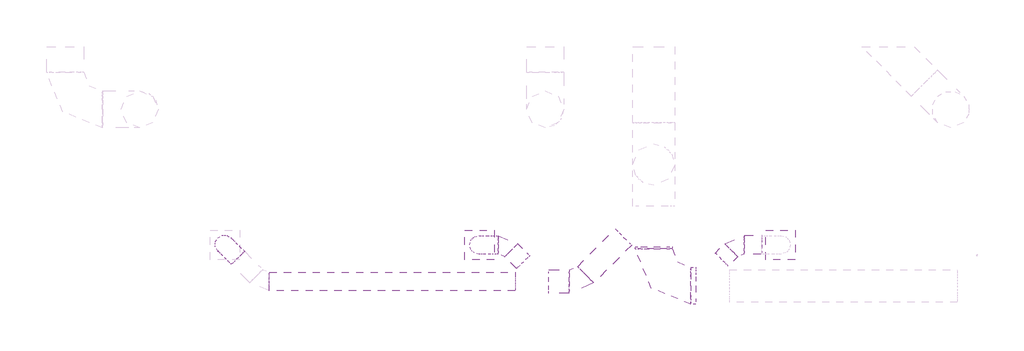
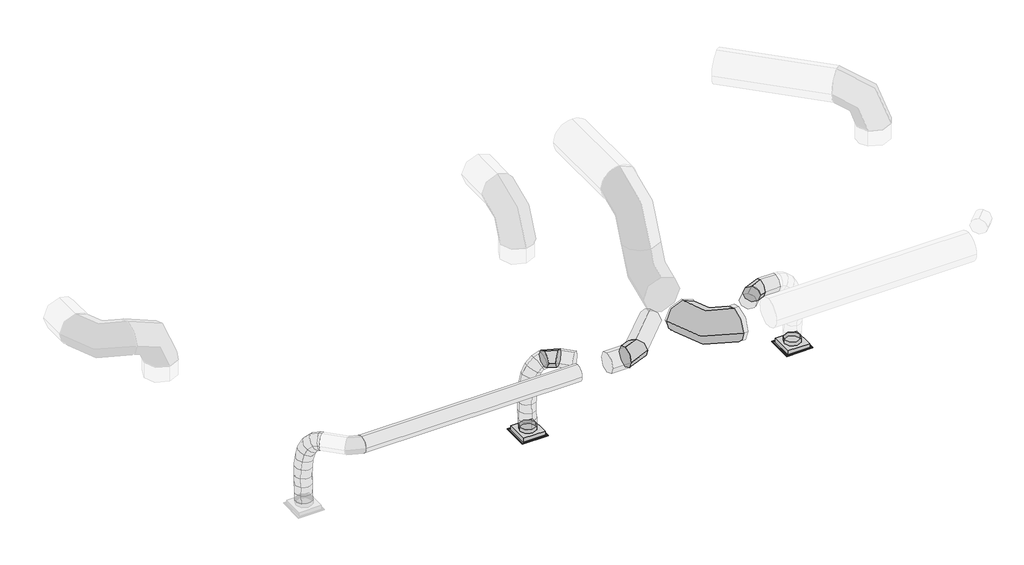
# One storey, part 4 of 33: 10 duct segments, 4 duct fittings, 2 air terminals.
"""IFC4 building model written with IfcOpenShell, lengths in millimetres."""

from ifc_helpers import new_model, si_unit, point, frame, frame_2d, origin, place, context, project, spatial, circle_curve, ellipse_curve, trimmed, segment, composite_curve, outline, extrude, transform, mapped, element, save
from ifc_brep_helpers import plane_surface, cylinder_surface, advanced_brep
from components import air_terminal_0721d01d, round_elbow_1_d_8aca8b6e, round_elbow_1_d_ea3dccb8, round_elbow_1_d_ab3aa7ba

model = new_model("IFC4")

# Units and contexts
model_context = context("Model", 3, world=origin())
ifc_project = project(units=[si_unit("LENGTHUNIT", "METRE", prefix="MILLI")], contexts=[model_context])

# Site, building, storey
site = spatial("IfcSite", under=ifc_project)
building = spatial("IfcBuilding", under=site)
storey = spatial("IfcBuildingStorey", under=building, Name="T.O. SLAB - 1ST", Elevation=-25.4)

# Air terminals
placement = place(None, origin())
air_terminal_shape = air_terminal_0721d01d(model_context)
element("IfcAirTerminal", 1, ObjectType="Titus-Round_Neck_Supply_Diffuser-PCS_Surface_Mount : PCS AA-08_12x12", at=placement, inside=storey, context=model_context, shape_type="MappedRepresentation", body=[
    mapped(air_terminal_shape, transform((23653.721449, 6517.7064145, 3022.6), x_axis=(1.0, 0.0, 0.0), y_axis=(0.0, -1.0, 0.0), z_axis=(0.0, 0.0, -1.0))),
])
element("IfcAirTerminal", 2, ObjectType="Titus-Round_Neck_Supply_Diffuser-PCS_Surface_Mount : PCS AA-08_12x12", at=placement, inside=storey, context=model_context, shape_type="MappedRepresentation", body=[
    mapped(air_terminal_shape, transform((20351.6723097, 6517.7064145, 3022.6), x_axis=(1.0, 0.0, 0.0), y_axis=(0.0, -1.0, 0.0), z_axis=(0.0, 0.0, -1.0))),
])

# Duct fittings
round_elbow_1_d_shape = round_elbow_1_d_8aca8b6e(model_context)
element("IfcDuctFitting", 3, ObjectType="Round Elbow : 1 D", at=placement, inside=storey, context=model_context, shape_type="MappedRepresentation", body=[
    mapped(round_elbow_1_d_shape, transform((22263.1, 6067.3602571, 3911.6), x_axis=(0.0, -1.0, 0.0), y_axis=(1.0, 0.0, 0.0), z_axis=(0.0, 0.0, 1.0))),
])
round_elbow_1_d_2_shape = round_elbow_1_d_ea3dccb8(model_context)
element("IfcDuctFitting", 4, ObjectType="Round Elbow : 1 D", at=placement, inside=storey, context=model_context, shape_type="MappedRepresentation", body=[
    mapped(round_elbow_1_d_2_shape, transform((21442.5280956, 6115.117656, 3911.6), x_axis=(1.0, 0.0, 0.0), y_axis=(0.0, 1.0, 0.0), z_axis=(0.0, 0.0, 1.0))),
])
round_elbow_1_d_3_shape = round_elbow_1_d_ab3aa7ba(model_context)
element("IfcDuctFitting", 5, ObjectType="Round Elbow : 1 D", at=placement, inside=storey, context=model_context, shape_type="MappedRepresentation", body=[
    mapped(round_elbow_1_d_3_shape, transform((20640.1367269, 6517.7515284, 3911.6), x_axis=(-0.7071067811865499, 0.7071067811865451, 0.0), y_axis=(-0.7071067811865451, -0.7071067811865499, 0.0), z_axis=(0.0, 0.0, 1.0))),
])
element("IfcDuctFitting", 6, ObjectType="Round Elbow : 1 D", at=placement, inside=storey, context=model_context, shape_type="MappedRepresentation", body=[
    mapped(round_elbow_1_d_3_shape, transform((23173.0894404, 6518.8479651, 3911.6), x_axis=(-1.0, 0.0, 0.0), y_axis=(0.0, -1.0, 0.0), z_axis=(0.0, 0.0, 1.0))),
])

# Duct segments
element("IfcDuctSegment", 7, ObjectType="Flex - Round", at=placement, inside=storey, context=model_context, shape_type="AdvancedBrep", body=[
    advanced_brep(
    [(20555.9685311, 6416.1515284, 3911.6), (20555.9685311, 6517.7515284, 3810.0), (20555.9685311, 6619.3515284, 3911.6), (20555.9685311, 6517.7515284, 4013.2), (20533.1192494, 6416.1515284, 3911.6), (20549.2051116, 6517.7515284, 3810.0), (20533.1165183, 6619.3515284, 3911.6), (20517.0306561, 6517.7515284, 4013.2), (20351.6802507, 6416.1064148, 3117.8517441), (20250.0927241, 6517.6984401, 3115.8134038), (20351.6643687, 6619.3064142, 3117.8482559), (20453.2518953, 6517.7143889, 3119.8865962), (20477.0111537, 6416.1499813, 3893.3748914), (20528.5144365, 6517.7509579, 3803.2792265), (20477.0025913, 6619.3499812, 3893.3729973), (20425.4993086, 6517.7490046, 3983.4686622), (20420.0108909, 6416.1458352, 3842.9121447), (20501.9836125, 6517.7490281, 3779.7912954), (20419.9976211, 6619.3458347, 3842.9060831), (20338.0248995, 6517.7426419, 3906.0269325), (20381.5853477, 6416.1398326, 3766.5304714), (20477.5817715, 6517.7452161, 3731.2857105), (20381.5701388, 6619.3398318, 3766.5205553), (20285.573715, 6517.7344482, 3801.7653162), (20358.3522272, 6416.1327159, 3670.5490413), (20458.6883597, 6517.7394288, 3653.2326274), (20358.3365652, 6619.332715, 3670.5372535), (20258.0004327, 6517.7260021, 3687.8536674), (20346.9291271, 6416.1252279, 3561.2881011), (20448.3848576, 6517.7326747, 3554.680543), (20346.9134261, 6619.3252269, 3561.2759401), (20245.4576956, 6517.7177801, 3567.8834983), (20343.9332867, 6416.1181111, 3445.0678257), (20445.5483982, 6517.7259365, 3444.6432735), (20343.917606, 6619.3181102, 3445.05645), (20242.3024945, 6517.7102848, 3445.4810022), (20345.9818248, 6416.1121083, 3328.2082078), (20447.5442656, 6517.720088, 3330.7882753), (20345.9661096, 6619.3121075, 3328.1987995), (20244.4036688, 6517.7041277, 3325.618732), (20349.6918189, 6416.1079619, 3217.0290211), (20451.2499324, 6517.7159465, 3219.7387686), (20349.6759832, 6619.3079613, 3217.0232245), (20248.1178697, 6517.6999767, 3214.313477)],
    [
        (0, 1, circle_curve(frame((20555.9685311, 6517.7515284, 3911.6), z_axis=(1.0, 0.0, 0.0), x_axis=(0.0, -1.0, 0.0)), 101.6)),
        (1, 2, circle_curve(frame((20555.9685311, 6517.7515284, 3911.6), z_axis=(1.0, 0.0, 0.0), x_axis=(0.0, -1.0, 0.0)), 101.6)),
        (2, 3, circle_curve(frame((20555.9685311, 6517.7515284, 3911.6), z_axis=(1.0, 0.0, 0.0), x_axis=(0.0, -1.0, 0.0)), 101.6)),
        (3, 0, circle_curve(frame((20555.9685311, 6517.7515284, 3911.6), z_axis=(1.0, 0.0, 0.0), x_axis=(0.0, -1.0, 0.0)), 101.6)),
        (0, 4),
        (4, 5, ellipse_curve(frame((20533.1178838, 6517.7515284, 3911.6), z_axis=(0.9876952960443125, 1.3275177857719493e-05, 0.15639054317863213), x_axis=(0.15639054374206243, -8.384030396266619e-05, -0.9876952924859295)), 102.8657324, 101.6)),
        (5, 1),
        (5, 6, ellipse_curve(frame((20533.1178838, 6517.7515284, 3911.6), z_axis=(0.9876952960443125, 1.3275177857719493e-05, 0.15639054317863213), x_axis=(0.15639054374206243, -8.384030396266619e-05, -0.9876952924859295)), 102.8657324, 101.6)),
        (6, 2),
        (6, 7, ellipse_curve(frame((20533.1178838, 6517.7515284, 3911.6), z_axis=(0.9876952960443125, 1.3275177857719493e-05, 0.15639054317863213), x_axis=(0.15639054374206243, -8.384030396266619e-05, -0.9876952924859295)), 102.8657324, 101.6)),
        (7, 3),
        (7, 4, ellipse_curve(frame((20533.1178838, 6517.7515284, 3911.6), z_axis=(0.9876952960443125, 1.3275177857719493e-05, 0.15639054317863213), x_axis=(0.15639054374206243, -8.384030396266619e-05, -0.9876952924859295)), 102.8657324, 101.6)),
        (8, 9, circle_curve(frame((20351.6723097, 6517.7064145, 3117.85), z_axis=(0.020045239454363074, -1.559653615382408e-05, -0.99979907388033), x_axis=(7.815954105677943e-05, -0.9999999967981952, 1.7166712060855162e-05)), 101.6)),
        (9, 10, circle_curve(frame((20351.6723097, 6517.7064145, 3117.85), z_axis=(0.020045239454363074, -1.559653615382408e-05, -0.99979907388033), x_axis=(7.815954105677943e-05, -0.9999999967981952, 1.7166712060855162e-05)), 101.6)),
        (10, 11, circle_curve(frame((20351.6723097, 6517.7064145, 3117.85), z_axis=(0.020045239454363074, -1.559653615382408e-05, -0.99979907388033), x_axis=(7.815954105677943e-05, -0.9999999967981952, 1.7166712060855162e-05)), 101.6)),
        (11, 8, circle_curve(frame((20351.6723097, 6517.7064145, 3117.85), z_axis=(0.020045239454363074, -1.559653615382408e-05, -0.99979907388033), x_axis=(7.815954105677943e-05, -0.9999999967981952, 1.7166712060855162e-05)), 101.6)),
        (4, 12),
        (12, 13, ellipse_curve(frame((20477.0068725, 6517.7499812, 3893.3739444), z_axis=(0.8681398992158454, 4.1208048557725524e-05, 0.49631956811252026), x_axis=(0.4963195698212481, -6.926412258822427e-05, -0.8681398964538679)), 103.7790313, 101.6)),
        (13, 5),
        (13, 14, ellipse_curve(frame((20477.0068725, 6517.7499812, 3893.3739444), z_axis=(0.8681398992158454, 4.1208048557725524e-05, 0.49631956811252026), x_axis=(0.4963195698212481, -6.926412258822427e-05, -0.8681398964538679)), 103.7790313, 101.6)),
        (14, 6),
        (14, 15, ellipse_curve(frame((20477.0068725, 6517.7499812, 3893.3739444), z_axis=(0.8681398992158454, 4.1208048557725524e-05, 0.49631956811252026), x_axis=(0.4963195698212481, -6.926412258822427e-05, -0.8681398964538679)), 103.7790313, 101.6)),
        (15, 7),
        (15, 12, ellipse_curve(frame((20477.0068725, 6517.7499812, 3893.3739444), z_axis=(0.8681398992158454, 4.1208048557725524e-05, 0.49631956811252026), x_axis=(0.4963195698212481, -6.926412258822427e-05, -0.8681398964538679)), 103.7790313, 101.6)),
        (12, 16),
        (16, 17, ellipse_curve(frame((20420.004256, 6517.745835, 3842.9091139), z_axis=(0.6100554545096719, 6.347580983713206e-05, 0.79235871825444), x_axis=(0.7923587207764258, -4.1671788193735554e-05, -0.6100554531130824)), 103.4624276, 101.6)),
        (17, 13),
        (17, 18, ellipse_curve(frame((20420.004256, 6517.745835, 3842.9091139), z_axis=(0.6100554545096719, 6.347580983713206e-05, 0.79235871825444), x_axis=(0.7923587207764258, -4.1671788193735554e-05, -0.6100554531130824)), 103.4624276, 101.6)),
        (18, 14),
        (18, 19, ellipse_curve(frame((20420.004256, 6517.745835, 3842.9091139), z_axis=(0.6100554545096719, 6.347580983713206e-05, 0.79235871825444), x_axis=(0.7923587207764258, -4.1671788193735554e-05, -0.6100554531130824)), 103.4624276, 101.6)),
        (19, 15),
        (19, 16, ellipse_curve(frame((20420.004256, 6517.745835, 3842.9091139), z_axis=(0.6100554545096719, 6.347580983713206e-05, 0.79235871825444), x_axis=(0.7923587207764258, -4.1671788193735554e-05, -0.6100554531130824)), 103.4624276, 101.6)),
        (16, 20),
        (20, 21, ellipse_curve(frame((20381.5777433, 6517.7398322, 3766.5255134), z_axis=(0.3445849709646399, 7.160197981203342e-05, 0.9387551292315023), x_axis=(0.9387551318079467, -8.156522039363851e-06, -0.3445849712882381)), 102.2673808, 101.6)),
        (21, 17),
        (21, 22, ellipse_curve(frame((20381.5777433, 6517.7398322, 3766.5255134), z_axis=(0.3445849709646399, 7.160197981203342e-05, 0.9387551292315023), x_axis=(0.9387551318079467, -8.156522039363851e-06, -0.3445849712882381)), 102.2673808, 101.6)),
        (22, 18),
        (22, 23, ellipse_curve(frame((20381.5777433, 6517.7398322, 3766.5255134), z_axis=(0.3445849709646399, 7.160197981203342e-05, 0.9387551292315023), x_axis=(0.9387551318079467, -8.156522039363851e-06, -0.3445849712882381)), 102.2673808, 101.6)),
        (23, 19),
        (23, 20, ellipse_curve(frame((20381.5777433, 6517.7398322, 3766.5255134), z_axis=(0.3445849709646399, 7.160197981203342e-05, 0.9387551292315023), x_axis=(0.9387551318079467, -8.156522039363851e-06, -0.3445849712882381)), 102.2673808, 101.6)),
        (20, 24),
        (24, 25, ellipse_curve(frame((20358.3443962, 6517.7327154, 3670.5431474), z_axis=(0.17000072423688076, 7.026952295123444e-05, 0.985443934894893), x_axis=(0.9854439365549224, 2.9298168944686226e-05, -0.17000072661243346)), 101.8261516, 101.6)),
        (25, 21),
        (25, 26, ellipse_curve(frame((20358.3443962, 6517.7327154, 3670.5431474), z_axis=(0.17000072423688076, 7.026952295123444e-05, 0.985443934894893), x_axis=(0.9854439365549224, 2.9298168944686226e-05, -0.17000072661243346)), 101.8261516, 101.6)),
        (26, 22),
        (26, 27, ellipse_curve(frame((20358.3443962, 6517.7327154, 3670.5431474), z_axis=(0.17000072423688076, 7.026952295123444e-05, 0.985443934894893), x_axis=(0.9854439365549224, 2.9298168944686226e-05, -0.17000072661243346)), 101.8261516, 101.6)),
        (27, 23),
        (27, 24, ellipse_curve(frame((20358.3443962, 6517.7327154, 3670.5431474), z_axis=(0.17000072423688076, 7.026952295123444e-05, 0.985443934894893), x_axis=(0.9854439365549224, 2.9298168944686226e-05, -0.17000072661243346)), 101.8261516, 101.6)),
        (24, 28),
        (28, 29, ellipse_curve(frame((20346.9212766, 6517.7252274, 3561.2820206), z_axis=(0.06492525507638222, 6.473802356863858e-05, 0.9978901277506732), x_axis=(0.9978901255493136, 8.863614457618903e-05, -0.06492526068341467)), 101.6781089, 101.6)),
        (29, 25),
        (29, 30, ellipse_curve(frame((20346.9212766, 6517.7252274, 3561.2820206), z_axis=(0.06492525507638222, 6.473802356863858e-05, 0.9978901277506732), x_axis=(0.9978901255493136, 8.863614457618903e-05, -0.06492526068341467)), 101.6781089, 101.6)),
        (30, 26),
        (30, 31, ellipse_curve(frame((20346.9212766, 6517.7252274, 3561.2820206), z_axis=(0.06492525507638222, 6.473802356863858e-05, 0.9978901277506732), x_axis=(0.9978901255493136, 8.863614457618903e-05, -0.06492526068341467)), 101.6781089, 101.6)),
        (31, 27),
        (31, 28, ellipse_curve(frame((20346.9212766, 6517.7252274, 3561.2820206), z_axis=(0.06492525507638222, 6.473802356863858e-05, 0.9978901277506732), x_axis=(0.9978901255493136, 8.863614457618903e-05, -0.06492526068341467)), 101.6781089, 101.6)),
        (28, 32),
        (32, 33, ellipse_curve(frame((20343.9254463, 6517.7181107, 3445.0621378), z_axis=(0.004121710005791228, 5.630064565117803e-05, 0.9999915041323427), x_axis=(0.9999914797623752, 0.00022760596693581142, -0.004121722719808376)), 101.6238154, 101.6)),
        (33, 29),
        (33, 34, ellipse_curve(frame((20343.9254463, 6517.7181107, 3445.0621378), z_axis=(0.004121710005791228, 5.630064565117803e-05, 0.9999915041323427), x_axis=(0.9999914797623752, 0.00022760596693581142, -0.004121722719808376)), 101.6238154, 101.6)),
        (34, 30),
        (34, 35, ellipse_curve(frame((20343.9254463, 6517.7181107, 3445.0621378), z_axis=(0.004121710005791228, 5.630064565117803e-05, 0.9999915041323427), x_axis=(0.9999914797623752, 0.00022760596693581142, -0.004121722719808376)), 101.6238154, 101.6)),
        (35, 31),
        (35, 32, ellipse_curve(frame((20343.9254463, 6517.7181107, 3445.0621378), z_axis=(0.004121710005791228, 5.630064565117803e-05, 0.9999915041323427), x_axis=(0.9999914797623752, 0.00022760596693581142, -0.004121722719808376)), 101.6238154, 101.6)),
        (32, 36),
        (36, 37, ellipse_curve(frame((20345.9739672, 6517.7121079, 3328.2035037), z_axis=(-0.02543987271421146, 4.431820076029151e-05, 0.9996763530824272), x_axis=(0.99967595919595, 0.0008899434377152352, 0.025439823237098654)), 101.6031822, 101.6)),
        (37, 33),
        (37, 38, ellipse_curve(frame((20345.9739672, 6517.7121079, 3328.2035037), z_axis=(-0.02543987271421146, 4.431820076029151e-05, 0.9996763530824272), x_axis=(0.99967595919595, 0.0008899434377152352, 0.025439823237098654)), 101.6031822, 101.6)),
        (38, 34),
        (38, 39, ellipse_curve(frame((20345.9739672, 6517.7121079, 3328.2035037), z_axis=(-0.02543987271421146, 4.431820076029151e-05, 0.9996763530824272), x_axis=(0.99967595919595, 0.0008899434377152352, 0.025439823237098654)), 101.6031822, 101.6)),
        (39, 35),
        (39, 36, ellipse_curve(frame((20345.9739672, 6517.7121079, 3328.2035037), z_axis=(-0.02543987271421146, 4.431820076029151e-05, 0.9996763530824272), x_axis=(0.99967595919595, 0.0008899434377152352, 0.025439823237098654)), 101.6031822, 101.6)),
        (36, 40),
        (40, 41, ellipse_curve(frame((20349.683901, 6517.7079616, 3217.0261228), z_axis=(-0.026698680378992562, 2.643556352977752e-05, 0.999643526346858), x_axis=(-0.9996421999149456, 0.0016285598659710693, -0.0266986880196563)), 101.6022501, 101.6)),
        (41, 37),
        (41, 42, ellipse_curve(frame((20349.683901, 6517.7079616, 3217.0261228), z_axis=(-0.026698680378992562, 2.643556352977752e-05, 0.999643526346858), x_axis=(-0.9996421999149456, 0.0016285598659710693, -0.0266986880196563)), 101.6022501, 101.6)),
        (42, 38),
        (42, 43, ellipse_curve(frame((20349.683901, 6517.7079616, 3217.0261228), z_axis=(-0.026698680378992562, 2.643556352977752e-05, 0.999643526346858), x_axis=(-0.9996421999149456, 0.0016285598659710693, -0.0266986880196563)), 101.6022501, 101.6)),
        (43, 39),
        (43, 40, ellipse_curve(frame((20349.683901, 6517.7079616, 3217.0261228), z_axis=(-0.026698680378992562, 2.643556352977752e-05, 0.999643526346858), x_axis=(-0.9996421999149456, 0.0016285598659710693, -0.0266986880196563)), 101.6022501, 101.6)),
        (40, 8),
        (11, 41),
        (10, 42),
        (9, 43),
    ],
    [
        plane_surface(frame((20555.9685311, 6517.7515284, 3810.0), z_axis=(1.0, 0.0, 0.0), x_axis=(0.0, -1.0, 0.0))),
        cylinder_surface(frame((20555.9685311, 6517.7515284, 3911.6), z_axis=(1.0, 0.0, 0.0), x_axis=(0.0, -1.0, 0.0)), 101.6),
        plane_surface(frame((20351.6723097, 6619.3064145, 3117.8484151), z_axis=(0.020045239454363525, -1.5596536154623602e-05, -0.9997990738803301), x_axis=(0.9997990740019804, 3.126991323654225e-07, 0.02004523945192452))),
        cylinder_surface(frame((20533.1178838, 6517.7515284, 3911.6), z_axis=(0.9510839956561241, 2.6223661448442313e-05, 0.3089324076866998), x_axis=(2.6223661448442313e-05, -0.9999999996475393, 4.152224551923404e-06)), 101.6),
        cylinder_surface(frame((20477.0068725, 6517.7499812, 3893.3739444), z_axis=(0.7487394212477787, 5.44619584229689e-05, 0.6628644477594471), x_axis=(5.466637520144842e-05, -0.9999999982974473, 2.041305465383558e-05)), 101.6),
        cylinder_surface(frame((20420.004256, 6517.745835, 3842.9091139), z_axis=(0.4494082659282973, 7.020440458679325e-05, 0.8933264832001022), x_axis=(7.168915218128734e-05, -0.9999999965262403, 4.2522759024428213e-05)), 101.6),
        cylinder_surface(frame((20381.5777433, 6517.7398322, 3766.5255134), z_axis=(0.23526426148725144, 7.206502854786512e-05, 0.9719314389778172), x_axis=(7.649991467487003e-05, -0.9999999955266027, 5.5628751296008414e-05)), 101.6),
        cylinder_surface(frame((20358.3443962, 6517.7327154, 3670.5431474), z_axis=(0.10398205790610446, 6.816188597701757e-05, 0.9945791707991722), x_axis=(7.733137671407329e-05, -0.999999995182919, 6.0448490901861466e-05)), 101.6),
        cylinder_surface(frame((20346.9212766, 6517.7252274, 3561.2820206), z_axis=(0.025768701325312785, 6.121469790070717e-05, 0.9996679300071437), x_axis=(7.725298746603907e-05, -0.9999999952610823, 5.92436614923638e-05)), 101.6),
        cylinder_surface(frame((20343.9254463, 6517.7181107, 3445.0621378), z_axis=(-0.017527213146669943, 5.136020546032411e-05, 0.9998463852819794), x_axis=(7.722610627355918e-05, -0.9999999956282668, 5.272186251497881e-05)), 101.6),
        cylinder_surface(frame((20345.9739672, 6517.7121079, 3328.2035037), z_axis=(-0.03335093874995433, 3.727342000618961e-05, 0.9994437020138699), x_axis=(7.755285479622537e-05, -0.9999999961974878, 3.9882066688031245e-05)), 101.6),
        cylinder_surface(frame((20349.683901, 6517.7079616, 3217.0261228), z_axis=(-0.020045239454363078, 1.5596536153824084e-05, 0.9997990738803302), x_axis=(7.815954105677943e-05, -0.9999999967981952, 1.7166712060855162e-05)), 101.6),
    ],
    [
        (0, [[1, 2, 3, 4]]),
        (1, [[-1, 5, 6, 7]]),
        (1, [[-2, -7, 8, 9]]),
        (1, [[-3, -9, 10, 11]]),
        (1, [[-4, -11, 12, -5]]),
        (2, [[13, 14, 15, 16]]),
        (3, [[-6, 17, 18, 19]]),
        (3, [[-8, -19, 20, 21]]),
        (3, [[-10, -21, 22, 23]]),
        (3, [[-12, -23, 24, -17]]),
        (4, [[-18, 25, 26, 27]]),
        (4, [[-20, -27, 28, 29]]),
        (4, [[-22, -29, 30, 31]]),
        (4, [[-24, -31, 32, -25]]),
        (5, [[-26, 33, 34, 35]]),
        (5, [[-28, -35, 36, 37]]),
        (5, [[-30, -37, 38, 39]]),
        (5, [[-32, -39, 40, -33]]),
        (6, [[-34, 41, 42, 43]]),
        (6, [[-36, -43, 44, 45]]),
        (6, [[-38, -45, 46, 47]]),
        (6, [[-40, -47, 48, -41]]),
        (7, [[-42, 49, 50, 51]]),
        (7, [[-44, -51, 52, 53]]),
        (7, [[-46, -53, 54, 55]]),
        (7, [[-48, -55, 56, -49]]),
        (8, [[-50, 57, 58, 59]]),
        (8, [[-52, -59, 60, 61]]),
        (8, [[-54, -61, 62, 63]]),
        (8, [[-56, -63, 64, -57]]),
        (9, [[-58, 65, 66, 67]]),
        (9, [[-60, -67, 68, 69]]),
        (9, [[-62, -69, 70, 71]]),
        (9, [[-64, -71, 72, -65]]),
        (10, [[-66, 73, 74, 75]]),
        (10, [[-68, -75, 76, 77]]),
        (10, [[-70, -77, 78, 79]]),
        (10, [[-72, -79, 80, -73]]),
        (11, [[-74, 81, -16, 82]]),
        (11, [[-76, -82, -15, 83]]),
        (11, [[-78, -83, -14, 84]]),
        (11, [[-80, -84, -13, -81]]),
    ],
),
])
element("IfcDuctSegment", 8, ObjectType="Flex - Round", at=placement, inside=storey, context=model_context, shape_type="AdvancedBrep", body=[
    advanced_brep(
    [(17629.5633924, 6303.3221249, 3911.6), (17701.4054414, 6375.1641739, 3810.0), (17773.2474903, 6447.0062228, 3911.6), (17701.4054414, 6375.1641739, 4013.2), (17613.3977417, 6319.4877756, 3911.6), (17696.6284318, 6379.9411834, 3810.0), (17757.0471967, 6463.2065165, 3911.6), (17673.8165066, 6402.7531087, 4013.2), (17485.9800971, 6445.7638162, 3117.8813156), (17485.7937447, 6589.4320005, 3115.7510334), (17629.462801, 6589.6490127, 3117.8186844), (17629.6491534, 6445.9808285, 3119.9489666), (17573.8392694, 6359.0071297, 3893.3857959), (17682.1498364, 6394.4054614, 3803.3335117), (17717.414744, 6502.7997779, 3893.3517325), (17609.104177, 6467.4014462, 3983.4040167), (17533.6489973, 6399.0925451, 3842.9454732), (17663.524614, 6412.9820904, 3779.9581481), (17677.1647793, 6542.9447301, 3842.8364934), (17547.2891625, 6529.0551848, 3905.8238186), (17506.5973407, 6425.9923502, 3766.5796419), (17646.3683437, 6430.0420559, 3731.526628), (17650.088606, 6569.8689142, 3766.4014526), (17510.317603, 6565.8192084, 3801.4544664), (17490.2903638, 6442.1192468, 3670.5971988), (17633.1063663, 6443.1575794, 3653.466973), (17633.7759348, 6586.0014422, 3670.3854925), (17490.9599323, 6584.9631096, 3687.5157184), (17482.3327593, 6449.8873482, 3561.3264355), (17625.9267503, 6450.1662193, 3554.879249), (17625.8178476, 6593.7700148, 3561.1081016), (17482.2238566, 6593.4911437, 3567.5552881), (17480.3246569, 6451.7153279, 3445.0943069), (17624.0249484, 6451.8974335, 3444.7999559), (17623.8099894, 6595.5977723, 3444.8901042), (17480.109698, 6595.4156666, 3445.1844552), (17481.8646622, 6450.0233793, 3328.2244883), (17625.5257964, 6450.2485056, 3330.9017495), (17625.3495293, 6593.906335, 3328.0556049), (17481.6883951, 6593.6812087, 3325.3783437), (17484.5508581, 6447.2322182, 3217.0367125), (17628.209848, 6447.4595726, 3219.8027334), (17628.0341591, 6591.1168011, 3216.9326505), (17484.3751693, 6590.8894467, 3214.1666296)],
    [
        (0, 1, circle_curve(frame((17701.4054414, 6375.1641739, 3911.6), z_axis=(0.7071067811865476, -0.7071067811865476, 0.0), x_axis=(-0.7071067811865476, -0.7071067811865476, 0.0)), 101.6)),
        (1, 2, circle_curve(frame((17701.4054414, 6375.1641739, 3911.6), z_axis=(0.7071067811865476, -0.7071067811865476, 0.0), x_axis=(-0.7071067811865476, -0.7071067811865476, 0.0)), 101.6)),
        (2, 3, circle_curve(frame((17701.4054414, 6375.1641739, 3911.6), z_axis=(0.7071067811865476, -0.7071067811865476, 0.0), x_axis=(-0.7071067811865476, -0.7071067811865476, 0.0)), 101.6)),
        (3, 0, circle_curve(frame((17701.4054414, 6375.1641739, 3911.6), z_axis=(0.7071067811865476, -0.7071067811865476, 0.0), x_axis=(-0.7071067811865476, -0.7071067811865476, 0.0)), 101.6)),
        (0, 4),
        (4, 5, ellipse_curve(frame((17685.2224692, 6391.347146, 3911.6), z_axis=(0.6985284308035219, -0.6981916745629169, 0.1568005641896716), x_axis=(0.10981431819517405, -0.11193542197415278, -0.9876291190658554)), 102.8725064, 101.6)),
        (5, 1),
        (5, 6, ellipse_curve(frame((17685.2224692, 6391.347146, 3911.6), z_axis=(0.6985284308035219, -0.6981916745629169, 0.1568005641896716), x_axis=(0.10981431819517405, -0.11193542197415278, -0.9876291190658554)), 102.8725064, 101.6)),
        (6, 2),
        (6, 7, ellipse_curve(frame((17685.2224692, 6391.347146, 3911.6), z_axis=(0.6985284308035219, -0.6981916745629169, 0.1568005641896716), x_axis=(0.10981431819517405, -0.11193542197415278, -0.9876291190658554)), 102.8725064, 101.6)),
        (7, 3),
        (7, 4, ellipse_curve(frame((17685.2224692, 6391.347146, 3911.6), z_axis=(0.6985284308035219, -0.6981916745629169, 0.1568005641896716), x_axis=(0.10981431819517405, -0.11193542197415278, -0.9876291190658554)), 102.8725064, 101.6)),
        (8, 9, circle_curve(frame((17557.721449, 6517.7064145, 3117.85), z_axis=(0.014411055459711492, -0.014805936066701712, -0.9997865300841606), x_axis=(-0.7061156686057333, -0.7080964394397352, 0.0003082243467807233)), 101.6)),
        (9, 10, circle_curve(frame((17557.721449, 6517.7064145, 3117.85), z_axis=(0.014411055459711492, -0.014805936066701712, -0.9997865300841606), x_axis=(-0.7061156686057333, -0.7080964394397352, 0.0003082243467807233)), 101.6)),
        (10, 11, circle_curve(frame((17557.721449, 6517.7064145, 3117.85), z_axis=(0.014411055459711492, -0.014805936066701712, -0.9997865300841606), x_axis=(-0.7061156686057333, -0.7080964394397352, 0.0003082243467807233)), 101.6)),
        (11, 8, circle_curve(frame((17557.721449, 6517.7064145, 3117.85), z_axis=(0.014411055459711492, -0.014805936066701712, -0.9997865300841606), x_axis=(-0.7061156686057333, -0.7080964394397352, 0.0003082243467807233)), 101.6)),
        (4, 12),
        (12, 13, ellipse_curve(frame((17645.6270067, 6430.9034538, 3893.3687642), z_axis=(0.6139198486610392, -0.6128747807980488, 0.4974805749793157), x_axis=(0.3508966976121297, -0.3526478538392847, -0.8674739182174)), 103.7900196, 101.6)),
        (13, 5),
        (13, 14, ellipse_curve(frame((17645.6270067, 6430.9034538, 3893.3687642), z_axis=(0.6139198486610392, -0.6128747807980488, 0.4974805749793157), x_axis=(0.3508966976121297, -0.3526478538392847, -0.8674739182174)), 103.7900196, 101.6)),
        (14, 6),
        (14, 15, ellipse_curve(frame((17645.6270067, 6430.9034538, 3893.3687642), z_axis=(0.6139198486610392, -0.6128747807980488, 0.4974805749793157), x_axis=(0.3508966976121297, -0.3526478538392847, -0.8674739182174)), 103.7900196, 101.6)),
        (15, 7),
        (15, 12, ellipse_curve(frame((17645.6270067, 6430.9034538, 3893.3687642), z_axis=(0.6139198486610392, -0.6128747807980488, 0.4974805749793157), x_axis=(0.3508966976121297, -0.3526478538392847, -0.8674739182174)), 103.7900196, 101.6)),
        (12, 16),
        (16, 17, ellipse_curve(frame((17605.4068883, 6471.0186376, 3842.8909833), z_axis=(0.43087426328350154, -0.4292653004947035, 0.7937749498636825), x_axis=(0.560758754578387, -0.5618096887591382, -0.6082100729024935)), 103.4719927, 101.6)),
        (17, 13),
        (17, 18, ellipse_curve(frame((17605.4068883, 6471.0186376, 3842.8909833), z_axis=(0.43087426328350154, -0.4292653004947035, 0.7937749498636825), x_axis=(0.560758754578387, -0.5618096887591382, -0.6082100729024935)), 103.4719927, 101.6)),
        (18, 14),
        (18, 19, ellipse_curve(frame((17605.4068883, 6471.0186376, 3842.8909833), z_axis=(0.43087426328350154, -0.4292653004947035, 0.7937749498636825), x_axis=(0.560758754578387, -0.5618096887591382, -0.6082100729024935)), 103.4719927, 101.6)),
        (19, 15),
        (19, 16, ellipse_curve(frame((17605.4068883, 6471.0186376, 3842.8909833), z_axis=(0.43087426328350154, -0.4292653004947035, 0.7937749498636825), x_axis=(0.560758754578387, -0.5618096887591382, -0.6082100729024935)), 103.4719927, 101.6)),
        (16, 20),
        (20, 21, ellipse_curve(frame((17578.3429733, 6497.9306322, 3766.4905472), z_axis=(0.24265483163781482, -0.24084114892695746, 0.9397415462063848), x_axis=(0.6643975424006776, -0.6645988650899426, -0.34188339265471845)), 102.2682043, 101.6)),
        (21, 17),
        (21, 22, ellipse_curve(frame((17578.3429733, 6497.9306322, 3766.4905472), z_axis=(0.24265483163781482, -0.24084114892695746, 0.9397415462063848), x_axis=(0.6643975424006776, -0.6645988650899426, -0.34188339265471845)), 102.2682043, 101.6)),
        (22, 18),
        (22, 23, ellipse_curve(frame((17578.3429733, 6497.9306322, 3766.4905472), z_axis=(0.24265483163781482, -0.24084114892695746, 0.9397415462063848), x_axis=(0.6643975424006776, -0.6645988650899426, -0.34188339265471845)), 102.2682043, 101.6)),
        (23, 19),
        (23, 20, ellipse_curve(frame((17578.3429733, 6497.9306322, 3766.4905472), z_axis=(0.24265483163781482, -0.24084114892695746, 0.9397415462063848), x_axis=(0.6643975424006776, -0.6645988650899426, -0.34188339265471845)), 102.2682043, 101.6)),
        (20, 24),
        (24, 25, ellipse_curve(frame((17562.0331493, 6514.0603445, 3670.4913457), z_axis=(0.11911079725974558, -0.11733178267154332, 0.9859238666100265), x_axis=(0.6975276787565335, -0.6967799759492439, -0.1671909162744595)), 101.8255055, 101.6)),
        (25, 21),
        (25, 26, ellipse_curve(frame((17562.0331493, 6514.0603445, 3670.4913457), z_axis=(0.11911079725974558, -0.11733178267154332, 0.9859238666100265), x_axis=(0.6975276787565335, -0.6967799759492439, -0.1671909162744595)), 101.8255055, 101.6)),
        (26, 22),
        (26, 27, ellipse_curve(frame((17562.0331493, 6514.0603445, 3670.4913457), z_axis=(0.11911079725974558, -0.11733178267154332, 0.9859238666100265), x_axis=(0.6975276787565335, -0.6967799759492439, -0.1671909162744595)), 101.8255055, 101.6)),
        (27, 23),
        (27, 24, ellipse_curve(frame((17562.0331493, 6514.0603445, 3670.4913457), z_axis=(0.11911079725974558, -0.11733178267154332, 0.9859238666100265), x_axis=(0.6975276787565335, -0.6967799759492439, -0.1671909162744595)), 101.8255055, 101.6)),
        (24, 28),
        (28, 29, ellipse_curve(frame((17554.0753034, 6521.8286815, 3561.2172685), z_axis=(0.04489538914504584, -0.043256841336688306, 0.9980547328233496), x_axis=(0.7068586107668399, -0.7046029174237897, -0.062334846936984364)), 101.6774773, 101.6)),
        (29, 25),
        (29, 30, ellipse_curve(frame((17554.0753034, 6521.8286815, 3561.2172685), z_axis=(0.04489538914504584, -0.043256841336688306, 0.9980547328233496), x_axis=(0.7068586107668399, -0.7046029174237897, -0.062334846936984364)), 101.6774773, 101.6)),
        (30, 26),
        (30, 31, ellipse_curve(frame((17554.0753034, 6521.8286815, 3561.2172685), z_axis=(0.04489538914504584, -0.043256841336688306, 0.9980547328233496), x_axis=(0.7068586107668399, -0.7046029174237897, -0.062334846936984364)), 101.6774773, 101.6)),
        (31, 27),
        (31, 28, ellipse_curve(frame((17554.0753034, 6521.8286815, 3561.2172685), z_axis=(0.04489538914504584, -0.043256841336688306, 0.9980547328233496), x_axis=(0.7068586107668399, -0.7046029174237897, -0.062334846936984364)), 101.6774773, 101.6)),
        (28, 32),
        (32, 33, ellipse_curve(frame((17552.0673232, 6523.6565501, 3444.9922056), z_axis=(0.002049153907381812, -0.000624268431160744, 0.9999977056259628), x_axis=(0.71000751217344, -0.7041915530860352, -0.001894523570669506)), 101.6233616, 101.6)),
        (33, 29),
        (33, 34, ellipse_curve(frame((17552.0673232, 6523.6565501, 3444.9922056), z_axis=(0.002049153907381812, -0.000624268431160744, 0.9999977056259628), x_axis=(0.71000751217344, -0.7041915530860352, -0.001894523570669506)), 101.6233616, 101.6)),
        (34, 30),
        (34, 35, ellipse_curve(frame((17552.0673232, 6523.6565501, 3444.9922056), z_axis=(0.002049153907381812, -0.000624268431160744, 0.9999977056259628), x_axis=(0.71000751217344, -0.7041915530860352, -0.001894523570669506)), 101.6233616, 101.6)),
        (35, 31),
        (35, 32, ellipse_curve(frame((17552.0673232, 6523.6565501, 3444.9922056), z_axis=(0.002049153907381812, -0.000624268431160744, 0.9999977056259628), x_axis=(0.71000751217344, -0.7041915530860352, -0.001894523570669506)), 101.6233616, 101.6)),
        (32, 36),
        (36, 37, ellipse_curve(frame((17553.6070958, 6521.9648571, 3328.1400466), z_axis=(-0.018660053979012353, 0.019781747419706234, 0.9996301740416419), x_axis=(0.7184196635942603, -0.6950792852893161, 0.02716567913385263)), 101.6029612, 101.6)),
        (37, 33),
        (37, 38, ellipse_curve(frame((17553.6070958, 6521.9648571, 3328.1400466), z_axis=(-0.018660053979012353, 0.019781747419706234, 0.9996301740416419), x_axis=(0.7184196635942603, -0.6950792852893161, 0.02716567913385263)), 101.6029612, 101.6)),
        (38, 34),
        (38, 39, ellipse_curve(frame((17553.6070958, 6521.9648571, 3328.1400466), z_axis=(-0.018660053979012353, 0.019781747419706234, 0.9996301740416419), x_axis=(0.7184196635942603, -0.6950792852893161, 0.02716567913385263)), 101.6029612, 101.6)),
        (39, 35),
        (39, 36, ellipse_curve(frame((17553.6070958, 6521.9648571, 3328.1400466), z_axis=(-0.018660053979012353, 0.019781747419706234, 0.9996301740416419), x_axis=(0.7184196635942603, -0.6950792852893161, 0.02716567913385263)), 101.6029612, 101.6)),
        (36, 40),
        (40, 41, ellipse_curve(frame((17556.2925086, 6519.1745096, 3216.9846815), z_axis=(-0.01927823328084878, 0.0199474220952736, 0.9996151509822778), x_axis=(-0.6872036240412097, 0.7259350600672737, -0.02773928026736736)), 101.6025479, 101.6)),
        (41, 37),
        (41, 42, ellipse_curve(frame((17556.2925086, 6519.1745096, 3216.9846815), z_axis=(-0.01927823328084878, 0.0199474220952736, 0.9996151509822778), x_axis=(-0.6872036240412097, 0.7259350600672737, -0.02773928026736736)), 101.6025479, 101.6)),
        (42, 38),
        (42, 43, ellipse_curve(frame((17556.2925086, 6519.1745096, 3216.9846815), z_axis=(-0.01927823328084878, 0.0199474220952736, 0.9996151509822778), x_axis=(-0.6872036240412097, 0.7259350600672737, -0.02773928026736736)), 101.6025479, 101.6)),
        (43, 39),
        (43, 40, ellipse_curve(frame((17556.2925086, 6519.1745096, 3216.9846815), z_axis=(-0.01927823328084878, 0.0199474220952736, 0.9996151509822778), x_axis=(-0.6872036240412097, 0.7259350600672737, -0.02773928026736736)), 101.6025479, 101.6)),
        (40, 8),
        (11, 41),
        (10, 42),
        (9, 43),
    ],
    [
        plane_surface(frame((17701.4054414, 6375.1641739, 4013.2), z_axis=(0.7071067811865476, -0.7071067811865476, 0.0), x_axis=(0.7071067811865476, 0.7071067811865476, 0.0))),
        cylinder_surface(frame((17701.4054414, 6375.1641739, 3911.6), z_axis=(0.7071067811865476, -0.7071067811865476, 0.0), x_axis=(-0.7071067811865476, -0.7071067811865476, 0.0)), 101.6),
        plane_surface(frame((17557.721449, 6619.2952754, 3116.3455607), z_axis=(0.014411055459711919, -0.014805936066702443, -0.9997865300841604), x_axis=(0.9998961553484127, 0.00021339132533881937, 0.014409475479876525))),
        cylinder_surface(frame((17685.2224692, 6391.347146, 3911.6), z_axis=(0.6726688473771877, -0.6720036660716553, 0.3097219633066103), x_axis=(-0.7067741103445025, -0.7074392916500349, 7.467552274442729e-05)), 101.6),
        cylinder_surface(frame((17645.6270067, 6430.9034538, 3893.3687642), z_axis=(0.5292628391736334, -0.527881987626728, 0.6642450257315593), x_axis=(-0.7064133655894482, -0.7077994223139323, 0.0003669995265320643)), 101.6),
        cylinder_surface(frame((17605.4068883, 6471.0186376, 3842.8909833), z_axis=(0.3168951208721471, -0.31511626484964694, 0.8945832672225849), x_axis=(-0.7061976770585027, -0.7080143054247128, 0.0007643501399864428)), 101.6),
        cylinder_surface(frame((17578.3429733, 6497.9306322, 3766.4905472), z_axis=(0.1652436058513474, -0.1634187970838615, 0.97261958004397), x_axis=(-0.7061370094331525, -0.7080745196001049, 0.000999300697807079)), 101.6),
        cylinder_surface(frame((17562.0331493, 6514.0603445, 3670.4913457), z_axis=(0.07245041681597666, -0.07072507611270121, 0.9948612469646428), x_axis=(-0.7061266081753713, -0.7080847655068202, 0.0010853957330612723)), 101.6),
        cylinder_surface(frame((17554.0753034, 6521.8286815, 3561.2172685), z_axis=(0.017271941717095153, -0.01572268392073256, 0.9997272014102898), x_axis=(-0.7061275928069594, -0.7080838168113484, 0.0010635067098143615)), 101.6),
        cylinder_surface(frame((17552.0673232, 6523.6565501, 3444.9922056), z_axis=(-0.01317457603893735, 0.014474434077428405, 0.9998084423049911), x_axis=(-0.7061278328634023, -0.7080837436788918, 0.0009463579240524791)), 101.6),
        cylinder_surface(frame((17553.6070958, 6521.9648571, 3328.1400466), z_axis=(-0.02414444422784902, 0.025087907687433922, 0.9993936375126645), x_axis=(-0.7061235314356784, -0.7080883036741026, 0.0007159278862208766)), 101.6),
        cylinder_surface(frame((17556.2925086, 6519.1745096, 3216.9846815), z_axis=(-0.014411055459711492, 0.014805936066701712, 0.9997865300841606), x_axis=(-0.7061156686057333, -0.7080964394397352, 0.0003082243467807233)), 101.6),
    ],
    [
        (0, [[1, 2, 3, 4]]),
        (1, [[-1, 5, 6, 7]]),
        (1, [[-2, -7, 8, 9]]),
        (1, [[-3, -9, 10, 11]]),
        (1, [[-4, -11, 12, -5]]),
        (2, [[13, 14, 15, 16]]),
        (3, [[-6, 17, 18, 19]]),
        (3, [[-8, -19, 20, 21]]),
        (3, [[-10, -21, 22, 23]]),
        (3, [[-12, -23, 24, -17]]),
        (4, [[-18, 25, 26, 27]]),
        (4, [[-20, -27, 28, 29]]),
        (4, [[-22, -29, 30, 31]]),
        (4, [[-24, -31, 32, -25]]),
        (5, [[-26, 33, 34, 35]]),
        (5, [[-28, -35, 36, 37]]),
        (5, [[-30, -37, 38, 39]]),
        (5, [[-32, -39, 40, -33]]),
        (6, [[-34, 41, 42, 43]]),
        (6, [[-36, -43, 44, 45]]),
        (6, [[-38, -45, 46, 47]]),
        (6, [[-40, -47, 48, -41]]),
        (7, [[-42, 49, 50, 51]]),
        (7, [[-44, -51, 52, 53]]),
        (7, [[-46, -53, 54, 55]]),
        (7, [[-48, -55, 56, -49]]),
        (8, [[-50, 57, 58, 59]]),
        (8, [[-52, -59, 60, 61]]),
        (8, [[-54, -61, 62, 63]]),
        (8, [[-56, -63, 64, -57]]),
        (9, [[-58, 65, 66, 67]]),
        (9, [[-60, -67, 68, 69]]),
        (9, [[-62, -69, 70, 71]]),
        (9, [[-64, -71, 72, -65]]),
        (10, [[-66, 73, 74, 75]]),
        (10, [[-68, -75, 76, 77]]),
        (10, [[-70, -77, 78, 79]]),
        (10, [[-72, -79, 80, -73]]),
        (11, [[-74, 81, -16, 82]]),
        (11, [[-76, -82, -15, 83]]),
        (11, [[-78, -83, -14, 84]]),
        (11, [[-80, -84, -13, -81]]),
    ],
),
])
element("IfcDuctSegment", 9, ObjectType="Taps", at=placement, inside=storey, context=model_context, shape_type="SweptSolid", body=[
    extrude(outline(composite_curve([segment(trimmed(circle_curve(frame_2d((0.0, -127.0)), 127.0), [point((-127.0, -127.0))], [point((0.0, 0.0))], False, "CARTESIAN"), True, "CONTINUOUS"), segment(trimmed(circle_curve(frame_2d((0.0, -127.0)), 127.0), [point((0.0, 0.0))], [point((127.0, -127.0))], False, "CARTESIAN"), True, "CONTINUOUS"), segment(trimmed(circle_curve(frame_2d((0.0, -127.0)), 127.0), [point((127.0, -127.0))], [point((0.0, -254.0))], False, "CARTESIAN"), True, "CONTINUOUS"), segment(trimmed(circle_curve(frame_2d((0.0, -127.0)), 127.0), [point((0.0, -254.0))], [point((-127.0, -127.0))], False, "CARTESIAN"), True, "CONTINUOUS")], self_intersect=False)), frame((21516.9229732, 6189.5125336, 3784.6), z_axis=(0.7071067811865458, 0.7071067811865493, 0.0), x_axis=(0.7071067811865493, -0.7071067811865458, 0.0)), (0.0, 0.0, 1.0), 585.9500591),
])
element("IfcDuctSegment", 10, ObjectType="Taps", at=placement, inside=storey, context=model_context, shape_type="SweptSolid", body=[
    extrude(outline(composite_curve([segment(trimmed(circle_curve(frame_2d((6115.117656, 3911.6)), 127.0), [point((6242.117656, 3911.6))], [point((6115.117656, 3784.6))], False, "CARTESIAN"), True, "CONTINUOUS"), segment(trimmed(circle_curve(frame_2d((6115.117656, 3911.6)), 127.0), [point((6115.117656, 3784.6))], [point((5988.117656, 3911.6))], False, "CARTESIAN"), True, "CONTINUOUS"), segment(trimmed(circle_curve(frame_2d((6115.117656, 3911.6)), 127.0), [point((5988.117656, 3911.6))], [point((6115.117656, 4038.6))], False, "CARTESIAN"), True, "CONTINUOUS"), segment(trimmed(circle_curve(frame_2d((6115.117656, 3911.6)), 127.0), [point((6115.117656, 4038.6))], [point((6242.117656, 3911.6))], False, "CARTESIAN"), True, "CONTINUOUS")], self_intersect=False)), frame((21113.7370334, 0.0, 0.0), z_axis=(1.0, 0.0, 0.0), x_axis=(0.0, 1.0, 0.0)), (0.0, 0.0, 1.0), 223.5808174),
])
element("IfcDuctSegment", 11, ObjectType="Taps", at=placement, inside=storey, context=model_context, shape_type="SweptSolid", body=[
    extrude(outline(composite_curve([segment(trimmed(circle_curve(frame_2d((0.0, 101.6)), 101.6), [point((101.6, 101.6))], [point((0.0, 0.0))], False, "CARTESIAN"), True, "CONTINUOUS"), segment(trimmed(circle_curve(frame_2d((0.0, 101.6)), 101.6), [point((0.0, 0.0))], [point((-101.6, 101.6))], False, "CARTESIAN"), True, "CONTINUOUS"), segment(trimmed(circle_curve(frame_2d((0.0, 101.6)), 101.6), [point((-101.6, 101.6))], [point((0.0, 203.2))], False, "CARTESIAN"), True, "CONTINUOUS"), segment(trimmed(circle_curve(frame_2d((0.0, 101.6)), 101.6), [point((0.0, 203.2))], [point((101.6, 101.6))], False, "CARTESIAN"), True, "CONTINUOUS")], self_intersect=False)), frame((20829.9251897, 6327.9630656, 4013.2), z_axis=(-0.7071067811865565, 0.7071067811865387, 0.0), x_axis=(0.7071067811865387, 0.7071067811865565, 0.0)), (0.0, 0.0, 1.0), 184.2332221),
])
element("IfcDuctSegment", 12, ObjectType="Taps", at=placement, inside=storey, context=model_context, shape_type="SweptSolid", body=[
    extrude(outline(composite_curve([segment(trimmed(circle_curve(frame_2d((6115.117656, 3911.6)), 101.6), [point((6216.717656, 3911.6))], [point((6115.117656, 3810.0))], False, "CARTESIAN"), True, "CONTINUOUS"), segment(trimmed(circle_curve(frame_2d((6115.117656, 3911.6)), 101.6), [point((6115.117656, 3810.0))], [point((6013.517656, 3911.6))], False, "CARTESIAN"), True, "CONTINUOUS"), segment(trimmed(circle_curve(frame_2d((6115.117656, 3911.6)), 101.6), [point((6013.517656, 3911.6))], [point((6115.117656, 4013.2))], False, "CARTESIAN"), True, "CONTINUOUS"), segment(trimmed(circle_curve(frame_2d((6115.117656, 3911.6)), 101.6), [point((6115.117656, 4013.2))], [point((6216.717656, 3911.6))], False, "CARTESIAN"), True, "CONTINUOUS")], self_intersect=False)), frame((18045.6201551, 0.0, 0.0), z_axis=(1.0, 0.0, 0.0), x_axis=(0.0, 1.0, 0.0)), (0.0, 0.0, 1.0), 2697.5840101),
])
element("IfcDuctSegment", 13, ObjectType="Taps", at=placement, inside=storey, context=model_context, shape_type="SweptSolid", body=[
    extrude(outline(composite_curve([segment(trimmed(circle_curve(frame_2d((3911.6, 22263.1)), 203.2), [point((3911.6, 22059.9))], [point((3708.4, 22263.1))], False, "CARTESIAN"), True, "CONTINUOUS"), segment(trimmed(circle_curve(frame_2d((3911.6, 22263.1)), 203.2), [point((3708.4, 22263.1))], [point((3911.6, 22466.3))], False, "CARTESIAN"), True, "CONTINUOUS"), segment(trimmed(circle_curve(frame_2d((3911.6, 22263.1)), 203.2), [point((3911.6, 22466.3))], [point((4114.8, 22263.1))], False, "CARTESIAN"), True, "CONTINUOUS"), segment(trimmed(circle_curve(frame_2d((3911.6, 22263.1)), 203.2), [point((4114.8, 22263.1))], [point((3911.6, 22059.9))], False, "CARTESIAN"), True, "CONTINUOUS")], self_intersect=False)), frame((0.0, 6473.7602571, 0.0), z_axis=(0.0, 1.0, 0.0), x_axis=(0.0, 0.0, 1.0)), (0.0, 0.0, 1.0), 25.4),
])
element("IfcDuctSegment", 14, ObjectType="Taps", at=placement, inside=storey, context=model_context, shape_type="SweptSolid", body=[
    extrude(outline(composite_curve([segment(trimmed(circle_curve(frame_2d((6067.3602571, 3911.6)), 203.2), [point((5864.1602571, 3911.6))], [point((6067.3602571, 4114.8))], False, "CARTESIAN"), True, "CONTINUOUS"), segment(trimmed(circle_curve(frame_2d((6067.3602571, 3911.6)), 203.2), [point((6067.3602571, 4114.8))], [point((6270.5602571, 3911.6))], False, "CARTESIAN"), True, "CONTINUOUS"), segment(trimmed(circle_curve(frame_2d((6067.3602571, 3911.6)), 203.2), [point((6270.5602571, 3911.6))], [point((6067.3602571, 3708.4))], False, "CARTESIAN"), True, "CONTINUOUS"), segment(trimmed(circle_curve(frame_2d((6067.3602571, 3911.6)), 203.2), [point((6067.3602571, 3708.4))], [point((5864.1602571, 3911.6))], False, "CARTESIAN"), True, "CONTINUOUS")], self_intersect=False)), frame((22669.5, 0.0, 0.0), z_axis=(1.0, 0.0, 0.0), x_axis=(0.0, 1.0, 0.0)), (0.0, 0.0, 1.0), 57.3352983),
])
element("IfcDuctSegment", 15, ObjectType="Taps", at=placement, inside=storey, context=model_context, shape_type="SweptSolid", body=[
    extrude(outline(composite_curve([segment(trimmed(circle_curve(frame_2d((0.0, 101.6)), 101.6), [point((101.6, 101.6))], [point((0.0, 0.0))], False, "CARTESIAN"), True, "CONTINUOUS"), segment(trimmed(circle_curve(frame_2d((0.0, 101.6)), 101.6), [point((0.0, 0.0))], [point((-101.6, 101.6))], False, "CARTESIAN"), True, "CONTINUOUS"), segment(trimmed(circle_curve(frame_2d((0.0, 101.6)), 101.6), [point((-101.6, 101.6))], [point((0.0, 203.2))], False, "CARTESIAN"), True, "CONTINUOUS"), segment(trimmed(circle_curve(frame_2d((0.0, 101.6)), 101.6), [point((0.0, 203.2))], [point((101.6, 101.6))], False, "CARTESIAN"), True, "CONTINUOUS")], self_intersect=False)), frame((23010.647142, 6356.4056667, 4013.2), z_axis=(0.7071067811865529, 0.7071067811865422, 0.0), x_axis=(0.7071067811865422, -0.7071067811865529, 0.0)), (0.0, 0.0, 1.0), 145.5599057),
])
element("IfcDuctSegment", 16, ObjectType="Taps", at=placement, inside=storey, context=model_context, shape_type="SweptSolid", body=[
    extrude(outline(composite_curve([segment(trimmed(circle_curve(frame_2d((6518.8479651, 3911.6)), 101.6), [point((6417.2479651, 3911.6))], [point((6518.8479651, 4013.2))], False, "CARTESIAN"), True, "CONTINUOUS"), segment(trimmed(circle_curve(frame_2d((6518.8479651, 3911.6)), 101.6), [point((6518.8479651, 4013.2))], [point((6620.4479651, 3911.6))], False, "CARTESIAN"), True, "CONTINUOUS"), segment(trimmed(circle_curve(frame_2d((6518.8479651, 3911.6)), 101.6), [point((6620.4479651, 3911.6))], [point((6518.8479651, 3810.0))], False, "CARTESIAN"), True, "CONTINUOUS"), segment(trimmed(circle_curve(frame_2d((6518.8479651, 3911.6)), 101.6), [point((6518.8479651, 3810.0))], [point((6417.2479651, 3911.6))], False, "CARTESIAN"), True, "CONTINUOUS")], self_intersect=False)), frame((23257.2576363, 0.0, 0.0), z_axis=(1.0, 0.0, 0.0), x_axis=(0.0, 1.0, 0.0)), (0.0, 0.0, 1.0), 193.2640281),
])

save(model, "model.ifc")
